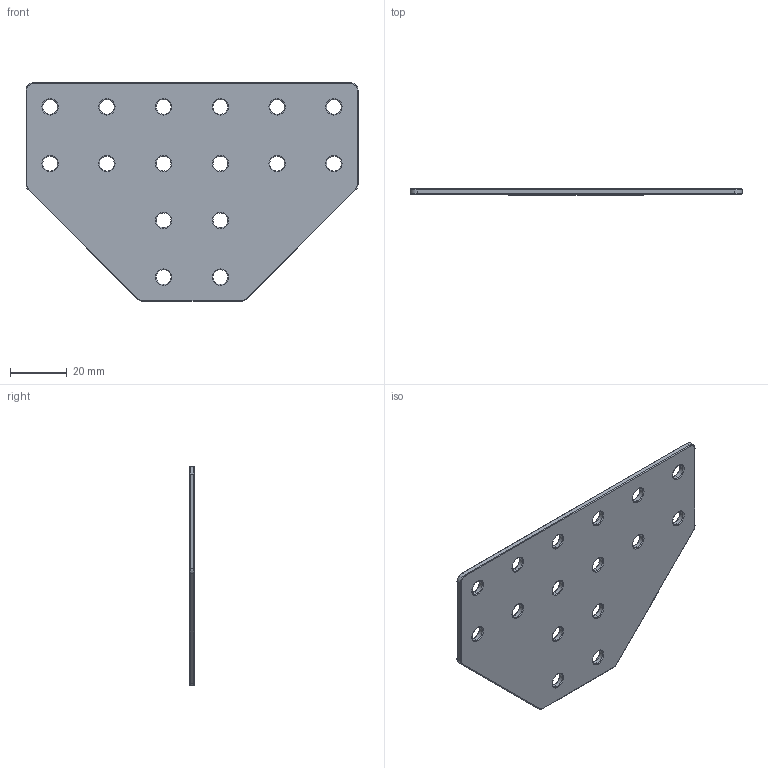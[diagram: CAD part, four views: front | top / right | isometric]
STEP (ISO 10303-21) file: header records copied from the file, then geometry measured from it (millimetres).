
FILE_DESCRIPTION (( 'STEP AP203' ), '1' );
FILE_NAME ('ﾒ-16-ﾓ-20.STEP', '2016-07-22T11:28:40', ( '' ), ( '' ), 'SwSTEP 2.0', 'SolidWorks 2014', '' );
FILE_SCHEMA (( 'CONFIG_CONTROL_DESIGN' ));
Length unit declared in the file: millimetre
Products named in the file (1): ﾒ-16-ﾓ-20
Bounding box: 117 x 2 x 77 mm (x, y, z)
Volume: 14108 mm3; surface area: 15177.9 mm2
Topology: 1 solids, 1 shells, 134 faces, 308 edges, 176 vertices
Faces by surface type: torus 76, cylinder 50, plane 8
Entity records: 3969 total; most frequent: DIRECTION 818, CARTESIAN_POINT 619, ORIENTED_EDGE 616, AXIS2_PLACEMENT_3D 375, EDGE_CURVE 308, CIRCLE 240, VERTEX_POINT 176, EDGE_LOOP 166
